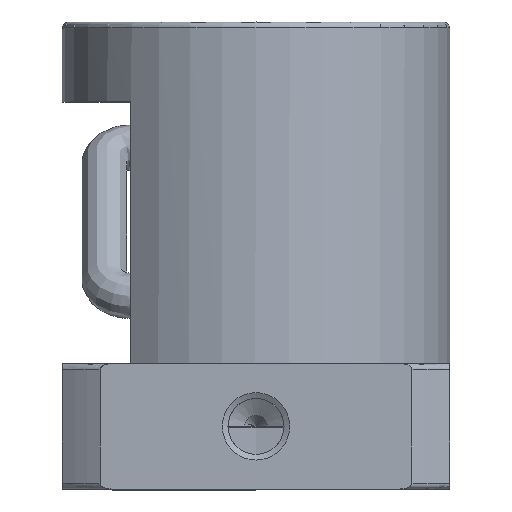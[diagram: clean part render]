
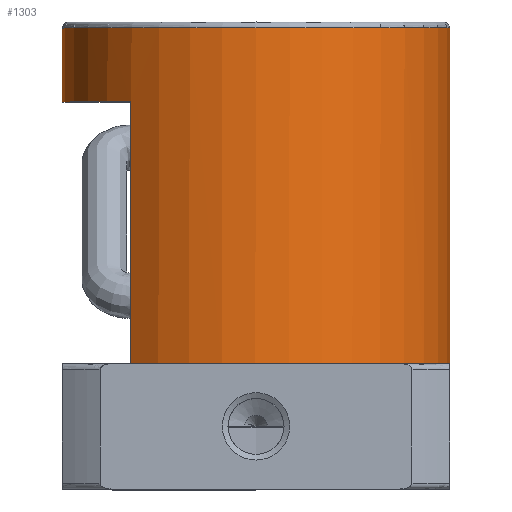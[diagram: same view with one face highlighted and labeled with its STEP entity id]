
A CAD part, top view. The second image highlights one B-rep face of the part: STEP entity #1303.
In plain terms, the highlighted cylindrical face has radius 17 mm (diameter 34 mm), a full revolution.
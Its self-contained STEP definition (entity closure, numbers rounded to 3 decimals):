
#74=CYLINDRICAL_SURFACE('',#1371,17.);
#103=CIRCLE('',#1372,17.);
#104=CIRCLE('',#1373,17.);
#105=CIRCLE('',#1374,17.);
#106=CIRCLE('',#1375,17.);
#166=ORIENTED_EDGE('',*,*,#406,.T.);
#167=ORIENTED_EDGE('',*,*,#407,.F.);
#168=ORIENTED_EDGE('',*,*,#401,.T.);
#169=ORIENTED_EDGE('',*,*,#408,.T.);
#170=ORIENTED_EDGE('',*,*,#409,.T.);
#171=ORIENTED_EDGE('',*,*,#399,.T.);
#399=EDGE_CURVE('',#520,#518,#612,.F.);
#401=EDGE_CURVE('',#519,#521,#614,.T.);
#406=EDGE_CURVE('',#526,#526,#103,.F.);
#407=EDGE_CURVE('',#519,#518,#104,.T.);
#408=EDGE_CURVE('',#521,#527,#105,.F.);
#409=EDGE_CURVE('',#527,#520,#106,.F.);
#518=VERTEX_POINT('',#1787);
#519=VERTEX_POINT('',#1788);
#520=VERTEX_POINT('',#1790);
#521=VERTEX_POINT('',#1792);
#526=VERTEX_POINT('',#1804);
#527=VERTEX_POINT('',#1807);
#612=LINE('',#1789,#641);
#614=LINE('',#1793,#643);
#641=VECTOR('',#1500,1000.);
#643=VECTOR('',#1502,1000.);
#674=EDGE_LOOP('',(#166));
#675=EDGE_LOOP('',(#167,#168,#169,#170,#171));
#774=FACE_BOUND('',#674,.T.);
#775=FACE_BOUND('',#675,.T.);
#1303=ADVANCED_FACE('',(#774,#775),#74,.T.);
#1371=AXIS2_PLACEMENT_3D('',#1802,#1511,#1512);
#1372=AXIS2_PLACEMENT_3D('',#1803,#1513,#1514);
#1373=AXIS2_PLACEMENT_3D('',#1805,#1515,#1516);
#1374=AXIS2_PLACEMENT_3D('',#1806,#1517,#1518);
#1375=AXIS2_PLACEMENT_3D('',#1808,#1519,#1520);
#1500=DIRECTION('',(0.,-1.,0.));
#1502=DIRECTION('',(0.,-1.,0.));
#1511=DIRECTION('',(0.,-1.,0.));
#1512=DIRECTION('',(0.,0.,-1.));
#1513=DIRECTION('',(0.,1.,0.));
#1514=DIRECTION('',(0.,0.,1.));
#1515=DIRECTION('',(0.,-1.,0.));
#1516=DIRECTION('',(0.,0.,-1.));
#1517=DIRECTION('',(0.,-1.,0.));
#1518=DIRECTION('',(0.,0.,-1.));
#1519=DIRECTION('',(0.,-1.,0.));
#1520=DIRECTION('',(0.,0.,-1.));
#1787=CARTESIAN_POINT('',(-11.,34.,-12.961));
#1788=CARTESIAN_POINT('',(-11.,34.,12.961));
#1789=CARTESIAN_POINT('',(-11.,41.,-12.961));
#1790=CARTESIAN_POINT('',(-11.,11.,-12.961));
#1792=CARTESIAN_POINT('',(-11.,11.,12.961));
#1793=CARTESIAN_POINT('',(-11.,41.,12.961));
#1802=CARTESIAN_POINT('',(0.,41.,0.));
#1803=CARTESIAN_POINT('',(0.,40.5,0.));
#1804=CARTESIAN_POINT('',(0.,40.5,17.));
#1805=CARTESIAN_POINT('',(0.,34.,0.));
#1806=CARTESIAN_POINT('',(0.,11.,0.));
#1807=CARTESIAN_POINT('',(17.,11.,0.));
#1808=CARTESIAN_POINT('',(0.,11.,0.));
